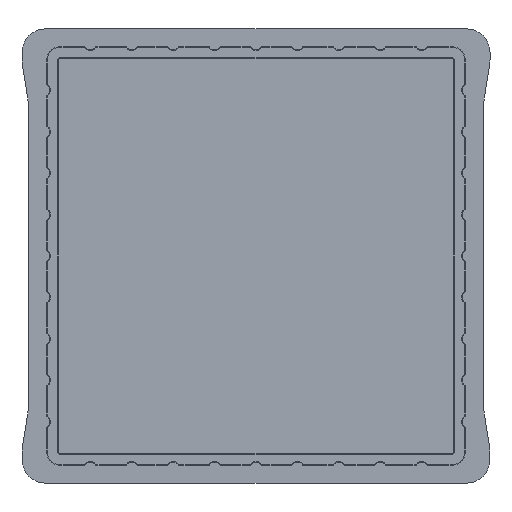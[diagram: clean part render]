
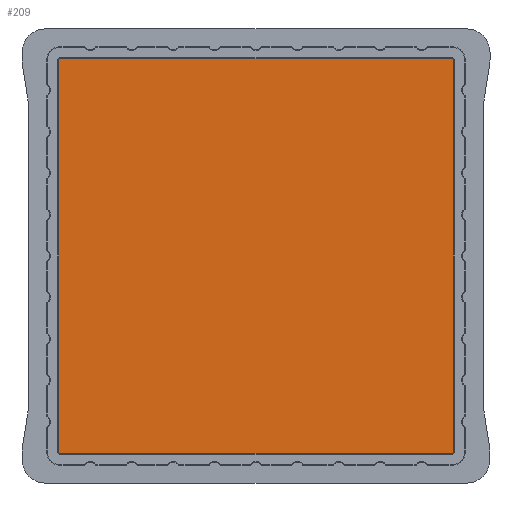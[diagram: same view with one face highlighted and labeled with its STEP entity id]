
A CAD part, front view. The second image highlights one B-rep face of the part: STEP entity #209.
In plain terms, the highlighted planar face has unit normal (0, -1, 0).
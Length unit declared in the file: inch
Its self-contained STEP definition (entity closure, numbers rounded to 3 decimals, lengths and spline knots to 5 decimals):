
#16 = DIRECTION ( 'NONE',  ( 0., -1., 0. ) ) ;
#21 = CARTESIAN_POINT ( 'NONE',  ( -0.8825, 0., 0.8825 ) ) ;
#39 = VERTEX_POINT ( 'NONE', #4833 ) ;
#209 = ADVANCED_FACE ( 'NONE', ( #7225 ), #4205, .F. ) ;
#264 = VERTEX_POINT ( 'NONE', #3922 ) ;
#480 = EDGE_LOOP ( 'NONE', ( #2148, #6980, #2865, #2522, #3747, #5916, #4261, #8023 ) ) ;
#802 = EDGE_CURVE ( 'NONE', #6055, #3814, #847, .T. ) ;
#847 = LINE ( 'NONE', #1754, #7881 ) ;
#896 = EDGE_CURVE ( 'NONE', #264, #39, #8447, .T. ) ;
#897 = AXIS2_PLACEMENT_3D ( 'NONE', #8232, #8223, #8212 ) ;
#1075 = CARTESIAN_POINT ( 'NONE',  ( 1.15254, 0., 0.8956 ) ) ;
#1081 = CARTESIAN_POINT ( 'NONE',  ( -0.8825, 0., -0.8825 ) ) ;
#1194 = DIRECTION ( 'NONE',  ( 1., 0., 0. ) ) ;
#1229 = AXIS2_PLACEMENT_3D ( 'NONE', #1081, #6041, #7499 ) ;
#1275 = CARTESIAN_POINT ( 'NONE',  ( 1.15254, 0., -0.8956 ) ) ;
#1592 = CARTESIAN_POINT ( 'NONE',  ( -0.8956, 0., 0.8825 ) ) ;
#1659 = DIRECTION ( 'NONE',  ( 0., 0., -1. ) ) ;
#1747 = CARTESIAN_POINT ( 'NONE',  ( -0.8956, 0., -0.8825 ) ) ;
#1754 = CARTESIAN_POINT ( 'NONE',  ( -0.8956, 0., -0.6673 ) ) ;
#2070 = EDGE_CURVE ( 'NONE', #3814, #264, #5407, .T. ) ;
#2148 = ORIENTED_EDGE ( 'NONE', *, *, #802, .T. ) ;
#2415 = VERTEX_POINT ( 'NONE', #5904 ) ;
#2522 = ORIENTED_EDGE ( 'NONE', *, *, #4327, .T. ) ;
#2865 = ORIENTED_EDGE ( 'NONE', *, *, #896, .T. ) ;
#2892 = CIRCLE ( 'NONE', #3011, 0.0131 ) ;
#3011 = AXIS2_PLACEMENT_3D ( 'NONE', #4679, #4672, #4667 ) ;
#3181 = CARTESIAN_POINT ( 'NONE',  ( -0.8825, 0., 0.8956 ) ) ;
#3418 = DIRECTION ( 'NONE',  ( 0., 0., 1. ) ) ;
#3447 = VECTOR ( 'NONE', #6864, 39.37008 ) ;
#3473 = CARTESIAN_POINT ( 'NONE',  ( 0.8956, 0., -0.6673 ) ) ;
#3747 = ORIENTED_EDGE ( 'NONE', *, *, #5627, .T. ) ;
#3787 = LINE ( 'NONE', #1075, #3447 ) ;
#3814 = VERTEX_POINT ( 'NONE', #1747 ) ;
#3922 = CARTESIAN_POINT ( 'NONE',  ( -0.8825, 0., -0.8956 ) ) ;
#4159 = DIRECTION ( 'NONE',  ( 0., 0., 1. ) ) ;
#4169 = DIRECTION ( 'NONE',  ( 0., 1., 0. ) ) ;
#4205 = PLANE ( 'NONE',  #7230 ) ;
#4261 = ORIENTED_EDGE ( 'NONE', *, *, #6209, .T. ) ;
#4327 = EDGE_CURVE ( 'NONE', #39, #8363, #7434, .T. ) ;
#4580 = CIRCLE ( 'NONE', #8043, 0.0131 ) ;
#4667 = DIRECTION ( 'NONE',  ( 0., 0., 1. ) ) ;
#4672 = DIRECTION ( 'NONE',  ( 0., -1., 0. ) ) ;
#4679 = CARTESIAN_POINT ( 'NONE',  ( 0.8825, 0., 0.8825 ) ) ;
#4833 = CARTESIAN_POINT ( 'NONE',  ( 0.8825, 0., -0.8956 ) ) ;
#4834 = DIRECTION ( 'NONE',  ( 0., 0., 1. ) ) ;
#5265 = EDGE_CURVE ( 'NONE', #7110, #2415, #2892, .T. ) ;
#5407 = CIRCLE ( 'NONE', #1229, 0.0131 ) ;
#5411 = VECTOR ( 'NONE', #3418, 39.37008 ) ;
#5627 = EDGE_CURVE ( 'NONE', #8363, #7110, #6937, .T. ) ;
#5875 = CARTESIAN_POINT ( 'NONE',  ( 0.8956, 0., 0.8825 ) ) ;
#5904 = CARTESIAN_POINT ( 'NONE',  ( 0.8825, 0., 0.8956 ) ) ;
#5916 = ORIENTED_EDGE ( 'NONE', *, *, #5265, .T. ) ;
#6041 = DIRECTION ( 'NONE',  ( 0., -1., 0. ) ) ;
#6055 = VERTEX_POINT ( 'NONE', #1592 ) ;
#6209 = EDGE_CURVE ( 'NONE', #2415, #7672, #3787, .T. ) ;
#6841 = CARTESIAN_POINT ( 'NONE',  ( 0.8956, 0., -0.8825 ) ) ;
#6864 = DIRECTION ( 'NONE',  ( -1., 0., 0. ) ) ;
#6937 = LINE ( 'NONE', #3473, #5411 ) ;
#6980 = ORIENTED_EDGE ( 'NONE', *, *, #2070, .T. ) ;
#7060 = VECTOR ( 'NONE', #1194, 39.37008 ) ;
#7110 = VERTEX_POINT ( 'NONE', #5875 ) ;
#7225 = FACE_OUTER_BOUND ( 'NONE', #480, .T. ) ;
#7230 = AXIS2_PLACEMENT_3D ( 'NONE', #8181, #4169, #4159 ) ;
#7434 = CIRCLE ( 'NONE', #897, 0.0131 ) ;
#7499 = DIRECTION ( 'NONE',  ( 0., 0., 1. ) ) ;
#7672 = VERTEX_POINT ( 'NONE', #3181 ) ;
#7881 = VECTOR ( 'NONE', #1659, 39.37008 ) ;
#8023 = ORIENTED_EDGE ( 'NONE', *, *, #8225, .T. ) ;
#8043 = AXIS2_PLACEMENT_3D ( 'NONE', #21, #16, #4834 ) ;
#8181 = CARTESIAN_POINT ( 'NONE',  ( 1.15254, 0., -0.6673 ) ) ;
#8212 = DIRECTION ( 'NONE',  ( 0., 0., 1. ) ) ;
#8223 = DIRECTION ( 'NONE',  ( 0., -1., 0. ) ) ;
#8225 = EDGE_CURVE ( 'NONE', #7672, #6055, #4580, .T. ) ;
#8232 = CARTESIAN_POINT ( 'NONE',  ( 0.8825, 0., -0.8825 ) ) ;
#8363 = VERTEX_POINT ( 'NONE', #6841 ) ;
#8447 = LINE ( 'NONE', #1275, #7060 ) ;
